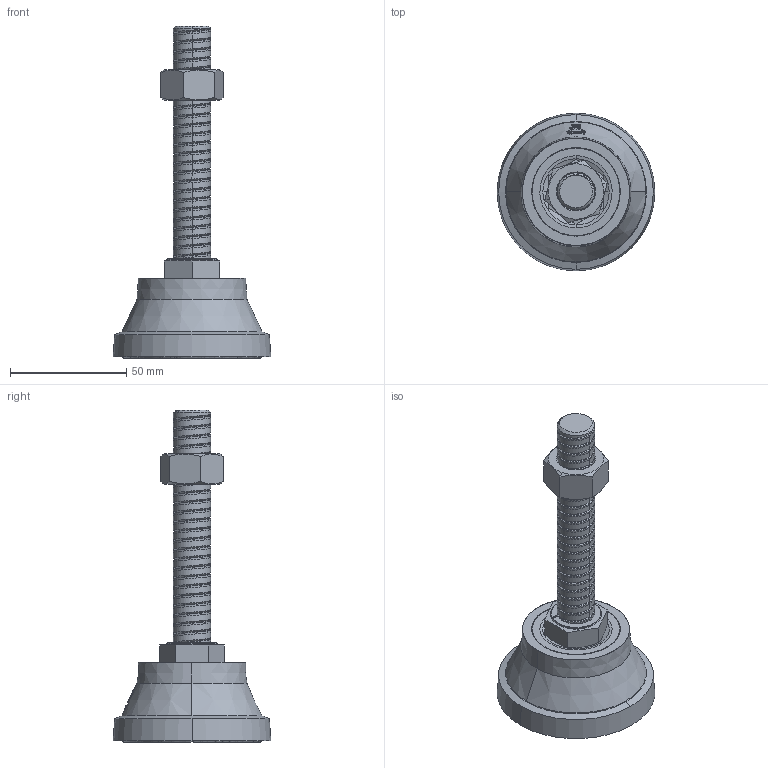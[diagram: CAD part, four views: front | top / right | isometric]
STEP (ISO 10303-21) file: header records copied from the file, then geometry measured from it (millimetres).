
FILE_DESCRIPTION (( 'STEP AP203' ), '1' );
FILE_NAME ('F-100-1-16-L.STEP', '2015-11-24T01:01:54', ( '' ), ( '' ), 'SwSTEP 2.0', 'SolidWorks 2014', '' );
FILE_SCHEMA (( 'CONFIG_CONTROL_DESIGN' ));
Length unit declared in the file: millimetre
Products named in the file (5): 65圓腳座-5-1; 65橡膠止滑墊-3-1; DT-M16X100L-12調整螺絲-1; M16螺帽-1; F-100-1-16-L
Assembly tree (4 placements, depth 2):
  F-100-1-16-L
    65圓腳座-5-1
    65橡膠止滑墊-3-1
    DT-M16X100L-12調整螺絲-1
    M16螺帽-1
Bounding box: 67.72 x 67.72 x 142.5 mm (x, y, z)
Volume: 46615.9 mm3; surface area: 40365.2 mm2
Topology: 4 solids, 290 shells, 498 faces, 2027 edges, 1818 vertices
Faces by surface type: bspline 243, cone 92, cylinder 91, plane 72
Entity records: 36445 total; most frequent: CARTESIAN_POINT 22555, ORIENTED_EDGE 2520, EDGE_CURVE 2007, VERTEX_POINT 1818, DIRECTION 1704, B_SPLINE_CURVE_WITH_KNOTS 871, LINE 718, VECTOR 718
